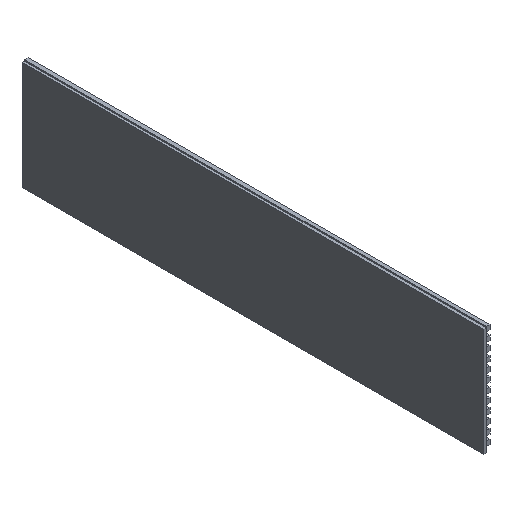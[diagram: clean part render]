
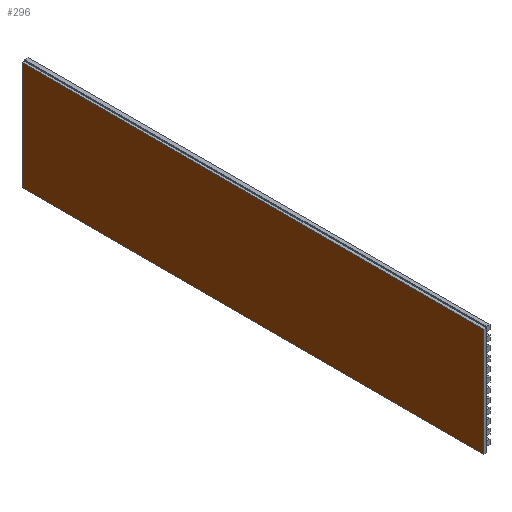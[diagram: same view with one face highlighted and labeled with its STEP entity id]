
A CAD part, isometric view. The second image highlights one B-rep face of the part: STEP entity #296.
In plain terms, the highlighted planar face has unit normal (-1, 0, 0).
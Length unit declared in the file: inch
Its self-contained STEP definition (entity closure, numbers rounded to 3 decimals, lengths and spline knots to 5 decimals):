
#124=FACE_OUTER_BOUND('',#136,.T.);
#136=EDGE_LOOP('',(#239,#240,#241,#242));
#150=LINE('',#565,#174);
#151=LINE('',#568,#175);
#152=LINE('',#570,#176);
#153=LINE('',#571,#177);
#174=VECTOR('',#454,0.3937);
#175=VECTOR('',#457,0.3937);
#176=VECTOR('',#458,0.3937);
#177=VECTOR('',#459,0.3937);
#195=VERTEX_POINT('',#558);
#198=VERTEX_POINT('',#563);
#199=VERTEX_POINT('',#567);
#200=VERTEX_POINT('',#569);
#214=EDGE_CURVE('',#195,#198,#150,.T.);
#215=EDGE_CURVE('',#199,#195,#151,.T.);
#216=EDGE_CURVE('',#200,#198,#152,.T.);
#217=EDGE_CURVE('',#199,#200,#153,.T.);
#239=ORIENTED_EDGE('',*,*,#215,.T.);
#240=ORIENTED_EDGE('',*,*,#214,.T.);
#241=ORIENTED_EDGE('',*,*,#216,.F.);
#242=ORIENTED_EDGE('',*,*,#217,.F.);
#284=PLANE('',#405);
#296=ADVANCED_FACE('',(#124),#284,.T.);
#405=AXIS2_PLACEMENT_3D('',#566,#455,#456);
#454=DIRECTION('',(0.,1.,0.));
#455=DIRECTION('center_axis',(-1.,0.,0.));
#456=DIRECTION('ref_axis',(0.,0.,1.));
#457=DIRECTION('',(0.,0.,1.));
#458=DIRECTION('',(0.,0.,1.));
#459=DIRECTION('',(0.,1.,0.));
#558=CARTESIAN_POINT('',(0.,0.,0.));
#563=CARTESIAN_POINT('',(0.,96.,0.));
#565=CARTESIAN_POINT('',(0.,0.,0.));
#566=CARTESIAN_POINT('Origin',(0.,0.,-22.5));
#567=CARTESIAN_POINT('',(0.,0.,-22.5));
#568=CARTESIAN_POINT('',(0.,0.,-22.5));
#569=CARTESIAN_POINT('',(0.,96.,-22.5));
#570=CARTESIAN_POINT('',(0.,96.,-22.5));
#571=CARTESIAN_POINT('',(0.,0.,-22.5));
